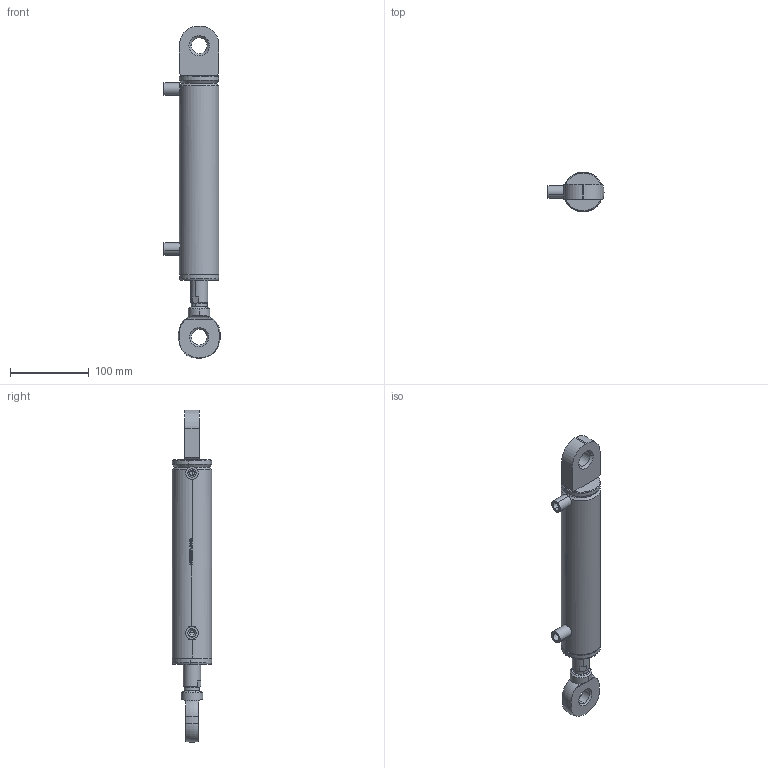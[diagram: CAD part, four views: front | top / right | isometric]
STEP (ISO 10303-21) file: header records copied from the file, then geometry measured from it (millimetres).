
FILE_DESCRIPTION (( 'STEP AP214' ), '1' );
FILE_NAME ('HC_A_40_22_150_ÖAMB_WEB.STEP', '2021-05-25T15:46:49', ( '' ), ( '' ), 'SwSTEP 2.0', 'SolidWorks 2021', '' );
FILE_SCHEMA (( 'AUTOMOTIVE_DESIGN' ));
Length unit declared in the file: millimetre
Products named in the file (10): HC_A_40_BORU_WEB; RMK_RMK 20; TAK_TAK_40_50; HC_A_40_22_150_淲MB_WEB; G1-4_Manson; RMY__RMY_20; HC_A_22_K_MIL_WEB; TDK_TDK_40_22; KO-36X3
Assembly tree (10 placements, depth 3):
  HC_A_40_22_150_淲MB_WEB
    HC_A_40_BORU_WEB
    HC_A_22_K_MIL_WEB
    TAK_TAK_40_50
    G1-4_Manson  x2
    TDK_TDK_40_22
      TDK_TDK_40_22
      KO-36X3
    RMK_RMK 20
    RMY__RMY_20
Bounding box: 71.2 x 50 x 421.5 mm (x, y, z)
Volume: 349583.4 mm3; surface area: 120076.1 mm2
Topology: 9 solids, 9 shells, 325 faces, 808 edges, 509 vertices
Faces by surface type: plane 117, bspline 85, cylinder 73, cone 42, torus 8
Entity records: 15755 total; most frequent: CARTESIAN_POINT 6503, ORIENTED_EDGE 1592, DIRECTION 1300, EDGE_CURVE 796, VERTEX_POINT 501, AXIS2_PLACEMENT_3D 461, VECTOR 378, LINE 378
